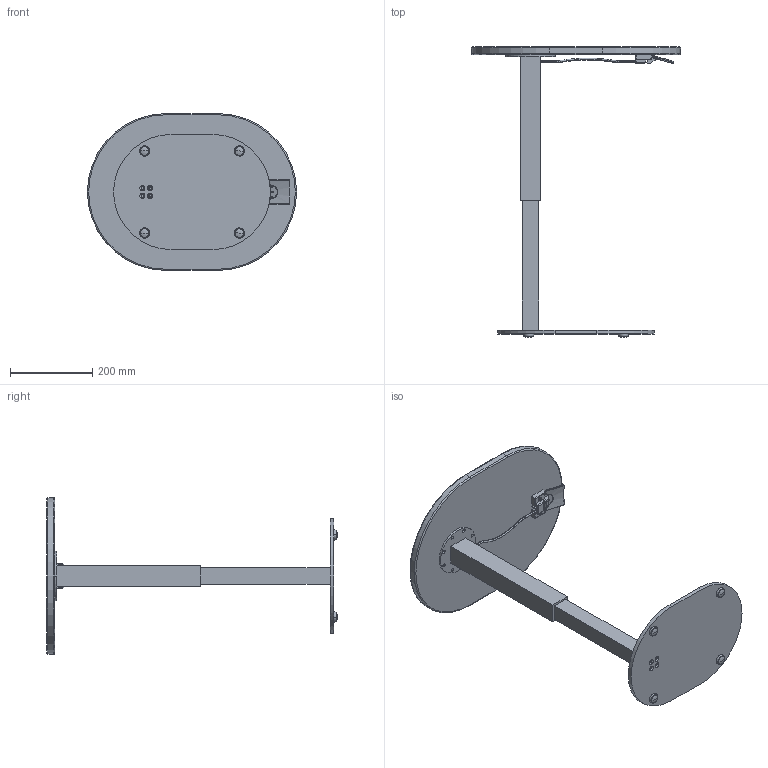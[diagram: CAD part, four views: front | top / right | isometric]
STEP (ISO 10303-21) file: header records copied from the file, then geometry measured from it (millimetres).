
FILE_DESCRIPTION (( 'STEP AP203' ), '1' );
FILE_NAME ('15x20- Racetrack-HT-ADJ._Highest Position.STEP', '2024-10-30T12:45:41', ( '' ), ( '' ), 'SwSTEP 2.0', 'SolidWorks 2021', '' );
FILE_SCHEMA (( 'CONFIG_CONTROL_DESIGN' ));
Length unit declared in the file: inch
Products named in the file (13): 15x11-RC_Base_Assy.; ALG-SS; TT-15x20-EB; Paddle Control Base; Paddle; TT-15x20-Core; TT-15x20; TT-15x20-Lam; 15x20- Racetrack-HT-ADJ._Highest Position; Proto laptop STAND_Fully Extended; Short Paddle Shift Cable_Curved; Paddle Control; 15x11 Racetrack Base
Assembly tree (15 placements, depth 3):
  15x20- Racetrack-HT-ADJ._Highest Position
    15x11-RC_Base_Assy.
      15x11 Racetrack Base
      ALG-SS  x4
    Proto laptop STAND_Fully Extended
    Paddle Control
      Paddle Control Base
      Paddle
    Short Paddle Shift Cable_Curved
    TT-15x20
      TT-15x20-Core
      TT-15x20-Lam
      TT-15x20-EB
Bounding box: 508 x 705.9 x 381 mm (x, y, z)
Volume: 5353619 mm3; surface area: 1136537.1 mm2
Topology: 16 solids, 16 shells, 500 faces, 1152 edges, 673 vertices
Faces by surface type: cylinder 171, plane 145, cone 128, torus 22, bspline 18, sphere 16
Entity records: 12712 total; most frequent: CARTESIAN_POINT 3069, DIRECTION 1779, ORIENTED_EDGE 1654, EDGE_CURVE 827, AXIS2_PLACEMENT_3D 645, VERTEX_POINT 508, VECTOR 489, LINE 489
